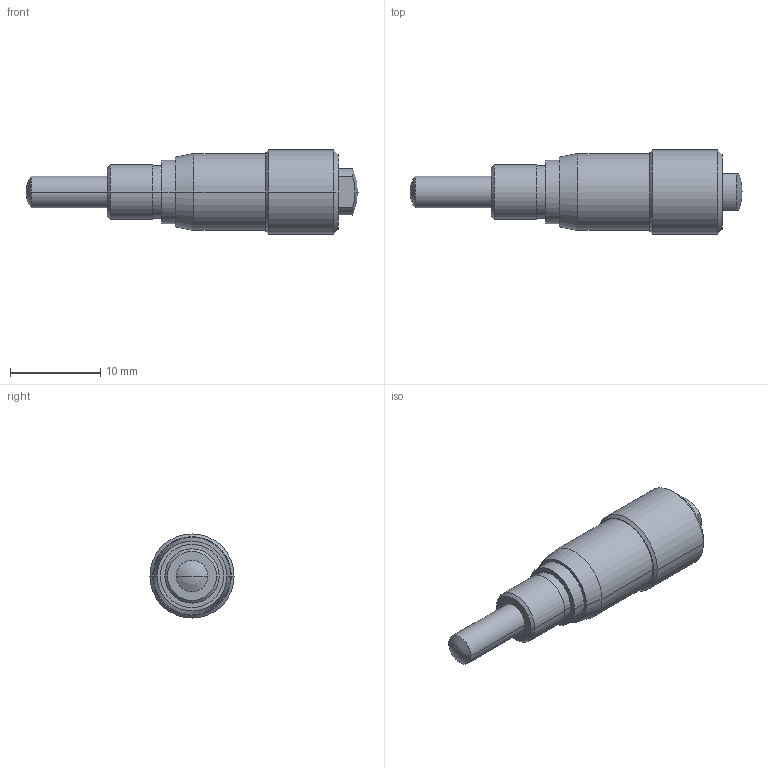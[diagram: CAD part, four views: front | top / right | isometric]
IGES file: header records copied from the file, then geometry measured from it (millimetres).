
Start section: Elysium IGES Interface
Global section: file name: 133HL:\商品設計部\部内\R_drv\99_受け渡しBOX\大竹\⇒賀藤さん\マイクロメータヘッド　CADデータ提供依頼\★3D_IGS完了\148-205-10_MHT3-6_5A.igs; native system: Creo Elements/Direct Modeling 18.1H  24-Oct-2015; preprocessor: Creo Element/Direct IGES_3D V2.2; author: Unknown; organization: Unknown; date: 20220926.143404; units: millimetre
Bounding box: 36.7 x 9.3 x 9.3 mm (x, y, z)
Volume: 1442.9 mm3; surface area: 877.4 mm2
Topology: 1 solids, 1 shells, 34 faces, 74 edges, 44 vertices
Faces by surface type: bspline 34
